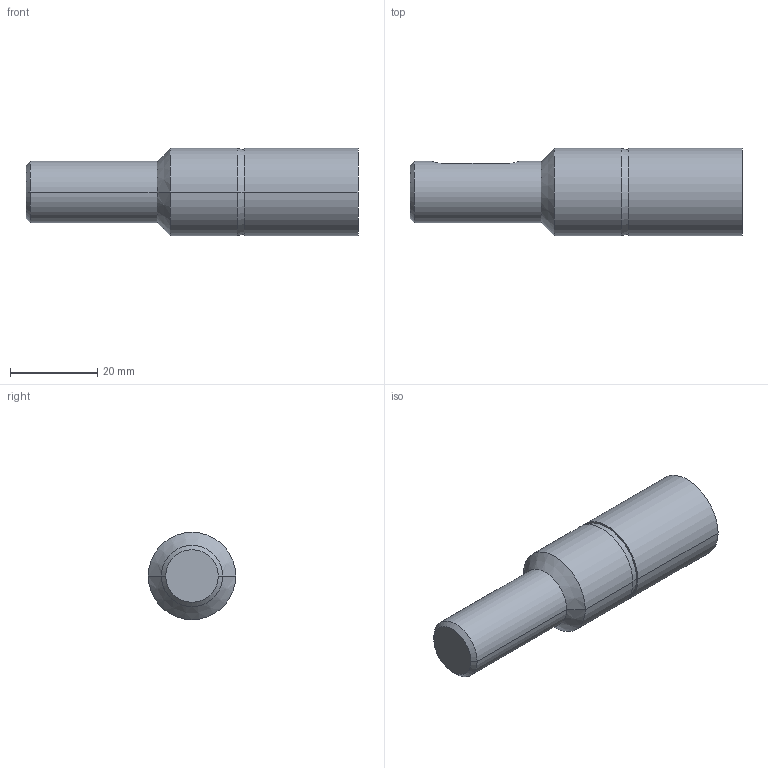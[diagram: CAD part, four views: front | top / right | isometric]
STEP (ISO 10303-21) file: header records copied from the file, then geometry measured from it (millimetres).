
FILE_DESCRIPTION (( 'STEP AP203' ), '1' );
FILE_NAME ('S2-20.STEP', '2002-08-16T10:48:46', ( '.' ), ( '.' ), 'SwSTEP 2.0', 'SolidWorks 2001340', '' );
FILE_SCHEMA (( 'CONFIG_CONTROL_DESIGN' ));
Length unit declared in the file: millimetre
Products named in the file (1): S2-20
Bounding box: 76 x 20 x 20 mm (x, y, z)
Volume: 18503.3 mm3; surface area: 4834.8 mm2
Topology: 1 solids, 1 shells, 20 faces, 43 edges, 26 vertices
Faces by surface type: cylinder 8, cone 6, plane 6
Entity records: 676 total; most frequent: CARTESIAN_POINT 156, DIRECTION 99, ORIENTED_EDGE 86, EDGE_CURVE 43, AXIS2_PLACEMENT_3D 39, VERTEX_POINT 26, EDGE_LOOP 21, LINE 21
